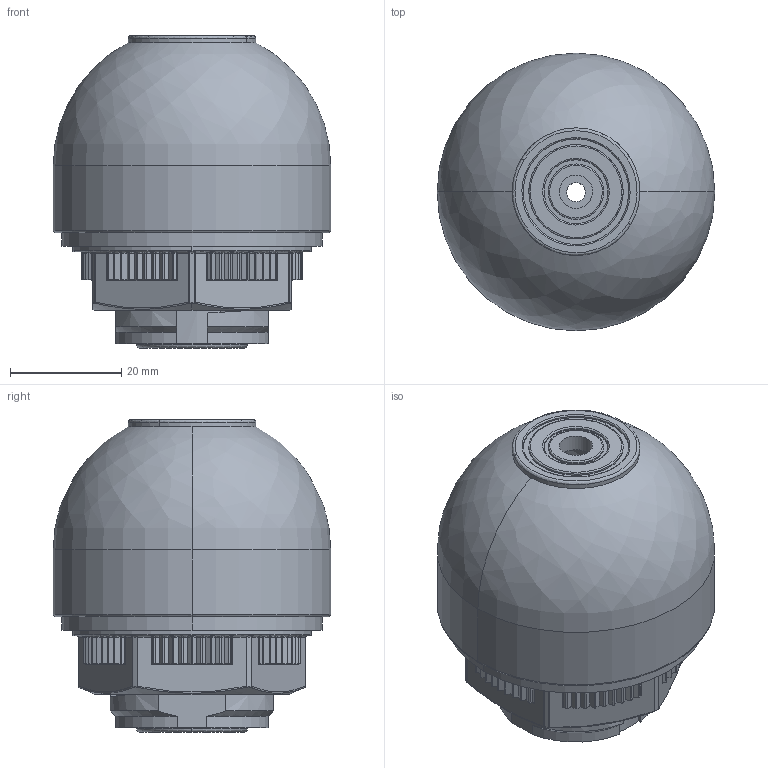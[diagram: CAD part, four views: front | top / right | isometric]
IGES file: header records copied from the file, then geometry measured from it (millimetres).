
Start section: IGES file generated by C3D Converter 1.6 translator by C3D Labs., translator version IGESOUT-5.1.
Global section: file name: C:\Users\Ìîíî\OneDrive\Desktop\øòóêè\Ãëàç\Äàò÷èê â ñáîðå.igs; preprocessor: 1.0; author: Ìîíî; organization: unknown; date: -17760728:193108; units: millimetre
Bounding box: 50 x 50 x 56.39 mm (x, y, z)
Volume: 46396 mm3; surface area: 24674.4 mm2
Topology: 7 solids, 7 shells, 545 faces, 1343 edges, 805 vertices
Faces by surface type: revolution 374, bspline 171
